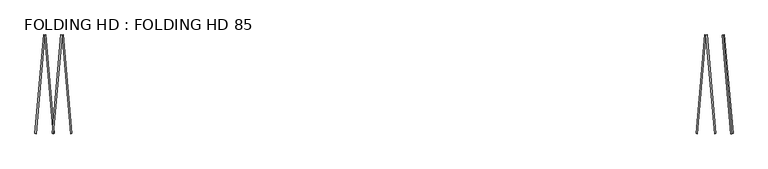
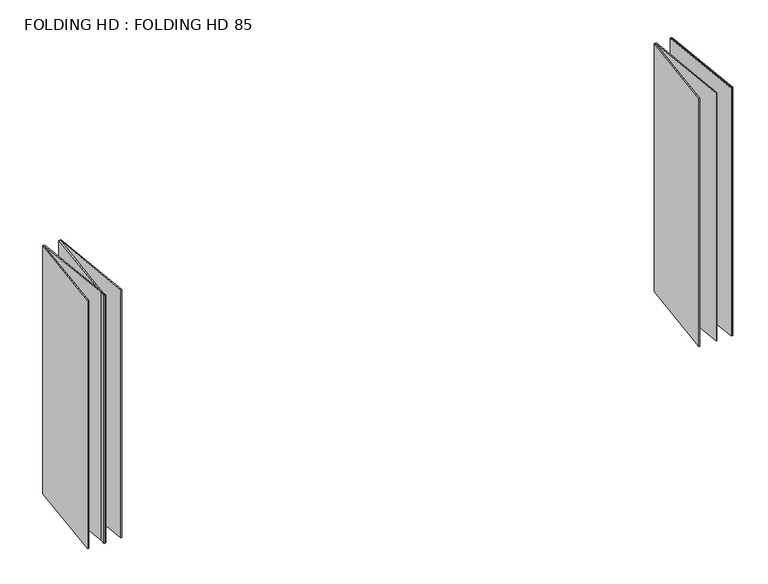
"""IFC4 building model written with IfcOpenShell, lengths in millimetres: plate geometry, FOLDING HD : FOLDING HD 85."""

from ifc_helpers import new_model, si_unit, origin, origin_with_axes, place, context, project, spatial, polyline, outline, extrude, source, transform, mapped, element, save


def folding_hd_folding_hd_85_1d048bdd(model_context):
    return source(origin(), model_context, "Body", "SweptSolid", [
        extrude(outline(polyline([(3071.5598315, 896.5752283), (3149.9999995, 0.0), (3140.0380525, -0.8715574), (3061.5978845, 895.7036709), (3071.5598315, 896.5752283)])), origin_with_axes(), (0.0, 0.0, 1.0), 2570.0),
        extrude(outline(polyline([(3071.5598315, 896.5752283), (3081.5217785, 897.4467857), (3159.961947, 0.8715574), (3150.0, 0.0), (3071.5598315, 896.5752283)])), origin_with_axes(), (0.0, 0.0, 1.0), 2570.0),
        extrude(outline(polyline([(2914.6794946, 896.5752283), (2924.6414416, 897.4467857), (3003.08161, 0.8715574), (2993.1196631, 0.0), (2914.6794946, 896.5752283)])), origin_with_axes(), (0.0, 0.0, 1.0), 2570.0),
        extrude(outline(polyline([(2914.6794946, 896.5752283), (2836.2393261, 0.0), (2826.2773791, 0.8715574), (2904.7175476, 897.4467857), (2914.6794946, 896.5752283)])), origin_with_axes(), (0.0, 0.0, 1.0), 2570.0),
        extrude(outline(polyline([(-2914.6794946, 896.5752283), (-2993.1196631, 0.0), (-3003.08161, 0.8715574), (-2924.6414416, 897.4467857), (-2914.6794946, 896.5752283)])), origin_with_axes(), (0.0, 0.0, 1.0), 2570.0),
        extrude(outline(polyline([(-2914.6794946, 896.5752283), (-2904.7175476, 897.4467857), (-2826.2773791, 0.8715574), (-2836.2393261, 0.0), (-2914.6794946, 896.5752283)])), origin_with_axes(), (0.0, 0.0, 1.0), 2570.0),
        extrude(outline(polyline([(-3071.5598315, 896.5752283), (-3061.5978845, 897.4467857), (-2983.1577161, 0.8715574), (-2993.1196631, 0.0), (-3071.5598315, 896.5752283)])), origin_with_axes(), (0.0, 0.0, 1.0), 2570.0),
        extrude(outline(polyline([(-3071.5598315, 896.5752283), (-3150.0, 0.0), (-3159.961947, 0.8715574), (-3081.5217785, 897.4467857), (-3071.5598315, 896.5752283)])), origin_with_axes(), (0.0, 0.0, 1.0), 2570.0),
    ])


if __name__ == "__main__":
    model = new_model("IFC4")
    model_context = context("Model", 3, world=origin())
    ifc_project = project(units=[si_unit("LENGTHUNIT", "METRE", prefix="MILLI")], contexts=[model_context])
    site = spatial("IfcSite", under=ifc_project)
    building = spatial("IfcBuilding", under=site)
    placement = place(None, origin())
    folding_hd_folding_hd_85_shape = folding_hd_folding_hd_85_1d048bdd(model_context)
    element("IfcPlate", 1, ObjectType="FOLDING HD : FOLDING HD 85", at=placement, inside=building, context=model_context, shape_type="MappedRepresentation", body=[
        mapped(folding_hd_folding_hd_85_shape, transform((0.0, 0.0, 0.0), x_axis=(1.0, 0.0, 0.0), y_axis=(0.0, 1.0, 0.0), z_axis=(0.0, 0.0, 1.0))),
    ])
    save(model, "model.ifc")
